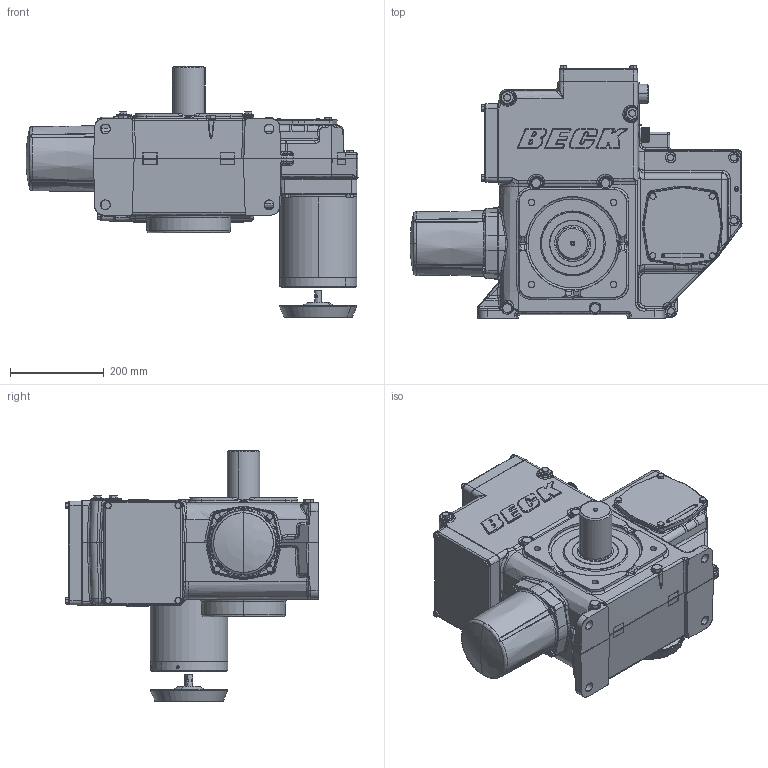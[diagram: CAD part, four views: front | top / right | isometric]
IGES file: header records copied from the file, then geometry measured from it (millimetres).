
Start section: SolidWorks IGES file using analytic representation for surfaces
Global section: file name: N:\Engineering\Product Support\Outline Dimension Models\11-400 & 460\Output\18-0460-01.IGS; native system: SolidWorks 2013; preprocessor: SolidWorks 2013; author: jmack; date: 130827.154610; units: inch
Bounding box: 708.29 x 538.3 x 536 mm (x, y, z)
Surface area: 1498083.8 mm2 (no closed solid volume)
Topology: 0 solids, 0 shells, 2046 faces, 29994 edges, 29943 vertices
Faces by surface type: bspline 1136, revolution 910
